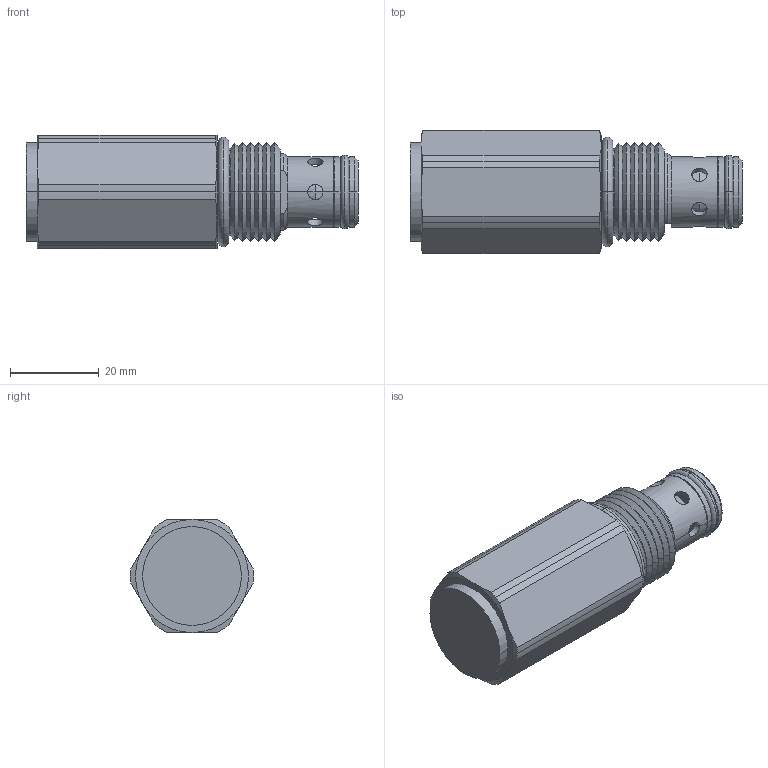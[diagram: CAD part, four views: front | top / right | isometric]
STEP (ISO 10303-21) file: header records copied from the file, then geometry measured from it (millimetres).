
FILE_DESCRIPTION((''),'2;1');
FILE_NAME('U:\Solid model CD\Solid model full\Mechanical\STEP\DERCA00-3D Full.stp','2008-07-28T16:13:49',('Dan'),(''),'Autodesk Inventor 9','Autodesk Inventor 9','');
FILE_SCHEMA(('AUTOMOTIVE_DESIGN { 1 0 10303 214 1 1 1 1 }'));
Length unit declared in the file: inch
Products named in the file (5): DERCA00-3D Full; DERCA00-3D Full1; DERCA00-3D Full2; DERCA00-3D Full3; DERCA00-3D Full4
Assembly tree (4 placements, depth 2):
  DERCA00-3D Full
    DERCA00-3D Full1
    DERCA00-3D Full2
    DERCA00-3D Full3
    DERCA00-3D Full4
Bounding box: 74.61 x 27.69 x 25.4 mm (x, y, z)
Volume: 31247 mm3; surface area: 8621.5 mm2
Topology: 4 solids, 4 shells, 139 faces, 339 edges, 207 vertices
Faces by surface type: cylinder 52, cone 46, plane 23, torus 12, bspline 6
Entity records: 4842 total; most frequent: CARTESIAN_POINT 1430, DIRECTION 740, ORIENTED_EDGE 678, EDGE_CURVE 339, AXIS2_PLACEMENT_3D 321, VERTEX_POINT 207, CIRCLE 179, EDGE_LOOP 160
